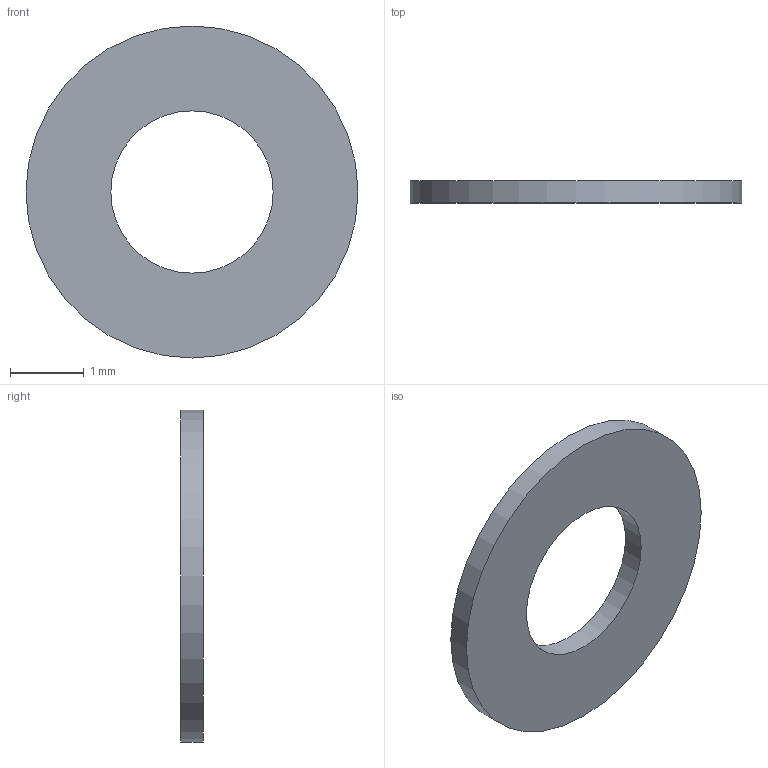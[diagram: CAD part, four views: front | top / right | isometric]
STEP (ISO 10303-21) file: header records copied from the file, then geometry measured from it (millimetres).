
FILE_DESCRIPTION(('Open CASCADE Model'),'2;1');
FILE_NAME('Open CASCADE Shape Model','2026-11-23T18:10:20',('Author'),( 'Open CASCADE'),'Open CASCADE STEP processor 8.0','build123d', 'Unknown');
FILE_SCHEMA(('AUTOMOTIVE_DESIGN { 1 0 10303 214 1 1 1 1 }'));
Length unit declared in the file: millimetre
Products named in the file (2): =>[0:1:1:2]; SOLID
Assembly tree (1 placements, depth 2):
  =>[0:1:1:2]
    SOLID
Bounding box: 4.5 x 0.3 x 4.5 mm (x, y, z)
Volume: 3.6 mm3; surface area: 30.5 mm2
Topology: 1 solids, 1 shells, 4 faces, 6 edges, 4 vertices
Faces by surface type: cylinder 2, plane 2
Full cylindrical faces by diameter (mm): 2.2 x1, 4.5 x1
Entity records: 204 total; most frequent: DIRECTION 34, CARTESIAN_POINT 28, ORIENTED_EDGE 12, PCURVE 12, DEFINITIONAL_REPRESENTATION 12, AXIS2_PLACEMENT_3D 10, LINE 10, VECTOR 10
